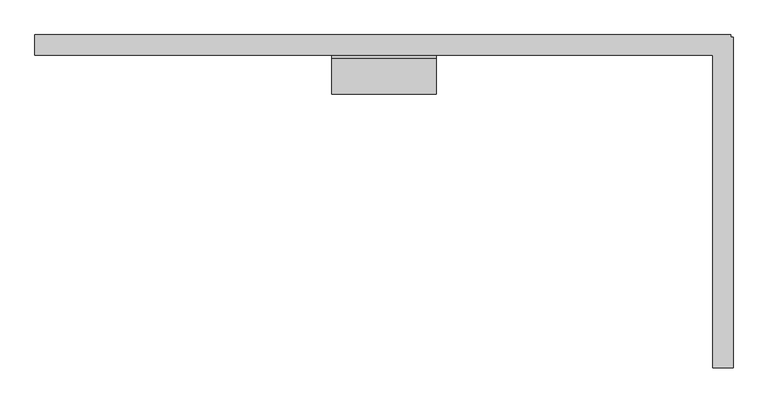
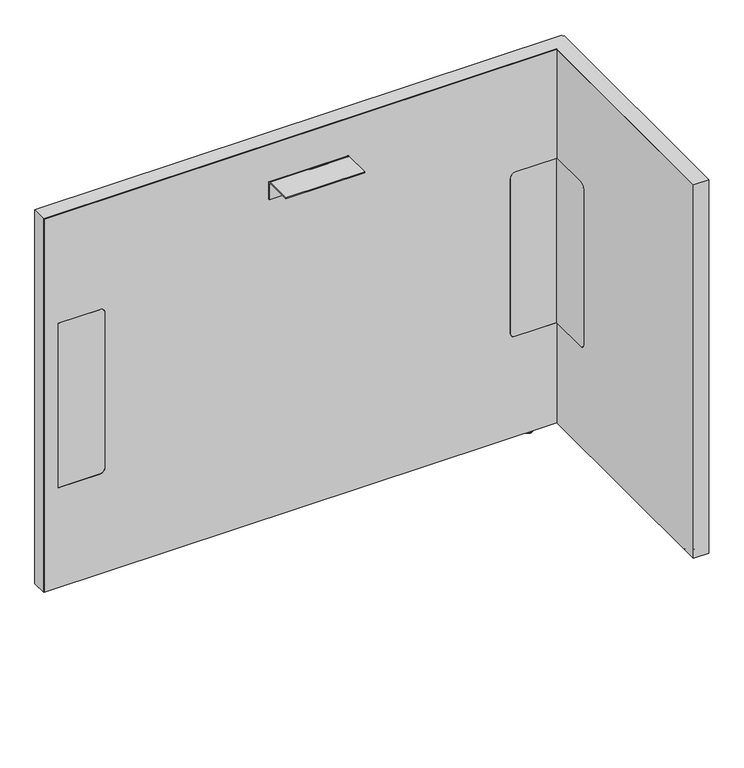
"""IFC4 building model written with IfcOpenShell, lengths in millimetres: furniture geometry, Steelcase - Answer Solution - Boundary Screen - L Return - Single Sided : 30H x 39W."""

import ifcopenshell
import ifcopenshell.guid

model = None  # the IFC model being written
_history = None  # IfcOwnerHistory: only IFC2X3 demands one
_inside = {}  # id of a spatial element -> (the spatial element, [elements in it])
_under = {}  # id of a project, library or spatial element -> (it, [spatial elements below it])
_declared = {}  # id of a project -> (the project, [libraries it declares])
_typed = {}  # id of a type object -> (the type object, [elements of that type])
_made_of = {}  # id of a material, layer set ... -> (it, [elements and type objects made of it])


def new_model(schema):
    """Start an empty IFC model of exactly this schema.

    Asked for "IFC4X3", IfcOpenShell would pick the latest addendum, in which some entities
    have other attributes; the version numbers below select the first issue.
    IFC2X3 requires an IfcOwnerHistory on every rooted entity: one is made here for all.
    """
    global model, _history
    if schema == "IFC4X3":
        model = ifcopenshell.file(schema_version=(4, 3, 0, 0))
    else:
        model = ifcopenshell.file(schema=schema)
    _inside.clear()
    _under.clear()
    _declared.clear()
    _typed.clear()
    _made_of.clear()
    _history = None
    if model.schema == "IFC2X3":
        org = make("IfcOrganization", Name="unknown")
        user = make(
            "IfcPersonAndOrganization",
            ThePerson=make("IfcPerson", FamilyName="unknown"),
            TheOrganization=org,
        )
        app = make(
            "IfcApplication",
            ApplicationDeveloper=org,
            Version="unknown",
            ApplicationFullName="unknown",
            ApplicationIdentifier="unknown",
        )
        _history = make(
            "IfcOwnerHistory",
            OwningUser=user,
            OwningApplication=app,
            ChangeAction="ADDED",
            CreationDate=0,
        )
    return model


def make(cls, **values):
    """One entity of the class cls with the attributes given. An attribute that is None is left unset."""
    return model.create_entity(
        cls, **{name: value for name, value in values.items() if value is not None}
    )


def rooted(cls, **values):
    """An entity with a GlobalId (a new one), such as an element, a storey or a relation."""
    return make(cls, GlobalId=ifcopenshell.guid.new(), OwnerHistory=_history, **values)


def si_unit(unit_type, name, prefix=None):
    """IfcSIUnit, for example si_unit("LENGTHUNIT", "METRE", prefix="MILLI")."""
    return make("IfcSIUnit", UnitType=unit_type, Prefix=prefix, Name=name)


def assignment(units):
    """IfcUnitAssignment: the units of a project."""
    return None if units is None else make("IfcUnitAssignment", Units=units)


def point(xyz):
    """IfcCartesianPoint."""
    return None if xyz is None else make("IfcCartesianPoint", Coordinates=xyz)


def direction(xyz):
    """IfcDirection."""
    return None if xyz is None else make("IfcDirection", DirectionRatios=xyz)


def frame(location, z_axis=None, x_axis=None):
    """IfcAxis2Placement3D, a coordinate frame: its origin and axes. An axis left out is left unset."""
    return make(
        "IfcAxis2Placement3D",
        Location=point(location),
        Axis=direction(z_axis),
        RefDirection=direction(x_axis),
    )


def frame_2d(location, x_axis=None):
    """IfcAxis2Placement2D, a coordinate frame in the plane: its origin and x axis."""
    return make(
        "IfcAxis2Placement2D", Location=point(location), RefDirection=direction(x_axis)
    )


def origin():
    """The frame at (0, 0, 0) with its axes left unset."""
    return frame((0.0, 0.0, 0.0))


def place(relative_to, where):
    """IfcLocalPlacement: puts the frame where relative to a parent placement (None: the world)."""
    return make(
        "IfcLocalPlacement", PlacementRelTo=relative_to, RelativePlacement=where
    )


def context(
    kind, dimensions, precision=None, world=None, true_north=None, identifier=None
):
    """IfcGeometricRepresentationContext, for example the 3D "Model" context."""
    return make(
        "IfcGeometricRepresentationContext",
        ContextIdentifier=identifier,
        ContextType=kind,
        CoordinateSpaceDimension=dimensions,
        Precision=precision,
        WorldCoordinateSystem=world,
        TrueNorth=true_north,
    )


def project(units=None, contexts=None):
    """IfcProject with its units and contexts."""
    return rooted(
        "IfcProject",
        Name="project",
        RepresentationContexts=contexts,
        UnitsInContext=assignment(units),
    )


def spatial(cls, under=None, at=None, **own):
    """A site, building, storey or space (cls), placed at a placement, below another one or the project."""
    s = rooted(cls, ObjectPlacement=at, **own)
    if under is not None:
        _under.setdefault(under.id(), (under, []))[1].append(s)
    return s


def polyline(points):
    """IfcPolyline through the points."""
    return make("IfcPolyline", Points=[point(p) for p in points])


def circle_curve(where, radius):
    """IfcCircle in the frame where."""
    return make("IfcCircle", Position=where, Radius=radius)


def ellipse_curve(where, semi_axis1, semi_axis2):
    """IfcEllipse in the frame where."""
    return make(
        "IfcEllipse", Position=where, SemiAxis1=semi_axis1, SemiAxis2=semi_axis2
    )


def trimmed(basis, trim1, trim2, sense, master):
    """IfcTrimmedCurve: the piece of a basis curve between two trims."""
    return make(
        "IfcTrimmedCurve",
        BasisCurve=basis,
        Trim1=trim1,
        Trim2=trim2,
        SenseAgreement=sense,
        MasterRepresentation=master,
    )


def segment(curve, same_sense, transition):
    """IfcCompositeCurveSegment."""
    return make(
        "IfcCompositeCurveSegment",
        Transition=transition,
        SameSense=same_sense,
        ParentCurve=curve,
    )


def composite_curve(segments, self_intersect=None):
    """IfcCompositeCurve: segments joined end to end."""
    return make("IfcCompositeCurve", Segments=segments, SelfIntersect=self_intersect)


def outline(outer, holes=None, kind="AREA"):
    """IfcArbitraryClosedProfileDef: a profile drawn as a closed curve; with holes, ...WithVoids."""
    if holes is None:
        return make("IfcArbitraryClosedProfileDef", ProfileType=kind, OuterCurve=outer)
    return make(
        "IfcArbitraryProfileDefWithVoids",
        ProfileType=kind,
        OuterCurve=outer,
        InnerCurves=holes,
    )


def extrude(swept, where, along, depth):
    """IfcExtrudedAreaSolid: the profile swept, set in the frame where, extruded along a direction by depth."""
    return make(
        "IfcExtrudedAreaSolid",
        SweptArea=swept,
        Position=where,
        ExtrudedDirection=direction(along),
        Depth=depth,
    )


def faces_of(points, faces, orient=None, outer=None):
    """IfcFace entities. A face is a list of loops; a loop is a list of indices into points, from 0.

    orient and outer hold one flag for each loop. By default every Orientation is true, the
    first loop of a face is its IfcFaceOuterBound and the others are IfcFaceBound.
    """
    made = []
    for i, loops in enumerate(faces):
        bounds = []
        for j, loop in enumerate(loops):
            is_outer = j == 0 if outer is None else outer[i][j]
            bounds.append(
                make(
                    "IfcFaceOuterBound" if is_outer else "IfcFaceBound",
                    Bound=make("IfcPolyLoop", Polygon=[points[k] for k in loop]),
                    Orientation=True if orient is None else orient[i][j],
                )
            )
        made.append(make("IfcFace", Bounds=bounds))
    return made


def faceted_brep(points, faces, orient=None, outer=None, voids=None):
    """IfcFacetedBrep: a solid bounded by flat faces; with voids (closed shells), ...WithVoids."""
    shared = [point(p) for p in points]
    hull = make("IfcClosedShell", CfsFaces=faces_of(shared, faces, orient, outer))
    if voids is None:
        return make("IfcFacetedBrep", Outer=hull)
    return make(
        "IfcFacetedBrepWithVoids",
        Outer=hull,
        Voids=[
            make(cls, CfsFaces=faces_of(shared, fs, o, b)) for cls, fs, o, b in voids
        ],
    )


def shape(context_of_items, identifier, shape_type, items):
    """IfcShapeRepresentation: the items that make up one representation, for example the "Body"."""
    return make(
        "IfcShapeRepresentation",
        ContextOfItems=context_of_items,
        RepresentationIdentifier=identifier,
        RepresentationType=shape_type,
        Items=items,
    )


def source(mapping_origin, context_of_items, identifier, shape_type, items):
    """IfcRepresentationMap: a shape defined once, which mapped items show again and again."""
    return make(
        "IfcRepresentationMap",
        MappingOrigin=mapping_origin,
        MappedRepresentation=shape(context_of_items, identifier, shape_type, items),
    )


def transform(
    local_origin,
    x_axis=None,
    y_axis=None,
    z_axis=None,
    scale=None,
    scale2=None,
    scale3=None,
    uniform=True,
):
    """IfcCartesianTransformationOperator3D, or its non-uniform kind. x_axis, y_axis, z_axis: its Axis1, 2, 3."""
    if uniform:
        return make(
            "IfcCartesianTransformationOperator3D",
            Axis1=direction(x_axis),
            Axis2=direction(y_axis),
            LocalOrigin=point(local_origin),
            Scale=scale,
            Axis3=direction(z_axis),
        )
    return make(
        "IfcCartesianTransformationOperator3DnonUniform",
        Axis1=direction(x_axis),
        Axis2=direction(y_axis),
        LocalOrigin=point(local_origin),
        Scale=scale,
        Axis3=direction(z_axis),
        Scale2=scale2,
        Scale3=scale3,
    )


def mapped(mapping_source, mapping_target):
    """IfcMappedItem: shows the shape of a source again, moved by a transform."""
    return make(
        "IfcMappedItem", MappingSource=mapping_source, MappingTarget=mapping_target
    )


def made_of(thing, what):
    """Note that an element or type object is made of a material, layer set ...; save() writes the relation."""
    if what is not None:
        _made_of.setdefault(what.id(), (what, []))[1].append(thing)
    return thing


def element(
    cls,
    number,
    at=None,
    inside=None,
    cuts=None,
    type_object=None,
    material=None,
    context=None,
    identifier="Body",
    shape_type=None,
    held_by="IfcProductDefinitionShape",
    body=None,
    shapes=None,
    **own,
):
    """One element of the class cls, such as IfcWall. Its Tag is "e" and its number.

    at: its placement. inside: the storey or other place that contains it. cuts: it is an
    opening in that element (IfcRelVoidsElement). A single representation is given by context,
    identifier, shape_type and body (its items); several are given by shapes. held_by: the class
    of the entity that holds the representations. save() writes the other relations.
    """
    e = rooted(cls, Tag="e%d" % number, ObjectPlacement=at, **own)
    if body is not None:
        shapes = [shape(context, identifier, shape_type, body)]
    if shapes is not None:
        e.Representation = make(held_by, Representations=shapes)
    if inside is not None:
        _inside.setdefault(inside.id(), (inside, []))[1].append(e)
    if cuts is not None:
        rooted(
            "IfcRelVoidsElement", RelatingBuildingElement=cuts, RelatedOpeningElement=e
        )
    if type_object is not None:
        _typed.setdefault(type_object.id(), (type_object, []))[1].append(e)
    return made_of(e, material)


def aggregate(whole, parts):
    """IfcRelAggregates: a whole, such as a stair, and the parts it consists of."""
    return rooted("IfcRelAggregates", RelatingObject=whole, RelatedObjects=parts)


def save(model, path):
    """Write the relations noted so far, then the file.

    IfcRelAggregates (storeys below a building ...), IfcRelContainedInSpatialStructure (elements
    in a storey), IfcRelDefinesByType, IfcRelAssociatesMaterial and IfcRelDeclares: one each for
    every whole, place, type object, material and project.
    """
    for whole, parts in _under.values():
        aggregate(whole, parts)
    for where, things in _inside.values():
        rooted(
            "IfcRelContainedInSpatialStructure",
            RelatedElements=things,
            RelatingStructure=where,
        )
    for kind, things in _typed.values():
        rooted("IfcRelDefinesByType", RelatedObjects=things, RelatingType=kind)
    for what, things in _made_of.values():
        rooted("IfcRelAssociatesMaterial", RelatedObjects=things, RelatingMaterial=what)
    for by, libraries in _declared.values():
        rooted("IfcRelDeclares", RelatingContext=by, RelatedDefinitions=libraries)
    model.write(path)


def plane_surface(at):
    """IfcPlane: the flat surface through the origin of the frame at, square to its z axis."""
    return make("IfcPlane", Position=at)


def cylinder_surface(at, radius):
    """IfcCylindricalSurface: all points at the distance radius from the z axis of the frame at."""
    return make("IfcCylindricalSurface", Position=at, Radius=radius)


def revolved_surface(curve, axis_point, axis_direction):
    """IfcSurfaceOfRevolution: the curve turned about the line through axis_point along axis_direction."""
    return make(
        "IfcSurfaceOfRevolution",
        SweptCurve=make("IfcArbitraryOpenProfileDef", ProfileType="CURVE", Curve=curve),
        AxisPosition=make("IfcAxis1Placement", Location=point(axis_point), Axis=direction(axis_direction)),
    )


def advanced_brep(points, edges, surfaces, faces):
    """IfcAdvancedBrep: a solid bounded by faces that lie on surfaces and meet in shared edges.

    An edge is (start, end): straight between two places in points (the first is 0);
    or (start, end, curve); or (start, end, curve, False) where it runs against its curve.
    A face is (place in surfaces, loops), or (place, loops, False) where it looks against
    its surface's normal. A loop lists edges by number (the first is 1), with a minus sign
    where the edge is run from its end to its start. The first loop is the outer one.
    """
    corners = [point(p) for p in points]
    vertices = [make("IfcVertexPoint", VertexGeometry=c) for c in corners]
    made = []
    for start, end, *more in edges:
        made.append(
            make(
                "IfcEdgeCurve",
                EdgeStart=vertices[start],
                EdgeEnd=vertices[end],
                EdgeGeometry=more[0] if more else make("IfcPolyline", Points=[corners[start], corners[end]]),
                SameSense=more[1] if len(more) > 1 else True,
            )
        )
    hull = []
    for where, loops, *sense in faces:
        bounds = []
        for j, loop in enumerate(loops):
            ring = [make("IfcOrientedEdge", EdgeElement=made[abs(k) - 1], Orientation=k > 0) for k in loop]
            bounds.append(
                make(
                    "IfcFaceOuterBound" if j == 0 else "IfcFaceBound",
                    Bound=make("IfcEdgeLoop", EdgeList=ring),
                    Orientation=True,
                )
            )
        hull.append(make("IfcAdvancedFace", Bounds=bounds, FaceSurface=surfaces[where], SameSense=sense[0] if sense else True))
    return make("IfcAdvancedBrep", Outer=make("IfcClosedShell", CfsFaces=hull))


def furniture_5e3e3d8e(model_context):
    return source(origin(), model_context, "Body", "SolidModel", [
        extrude(outline(composite_curve([segment(polyline([(-109.3501471, 549.6162029), (-29.0550397, 549.6162029), (-29.0550397, 213.7762137), (-109.3501471, 213.7762137)]), True, "CONTINUOUS"), segment(trimmed(circle_curve(frame_2d((-109.3501471, 223.9362137)), 10.16), [point((-109.3501471, 213.7762137))], [point((-119.5101471, 223.9362137))], False, "CARTESIAN"), True, "CONTINUOUS"), segment(polyline([(-119.5101471, 223.9362137), (-119.5101471, 539.4562029)]), True, "CONTINUOUS"), segment(trimmed(circle_curve(frame_2d((-109.3501471, 539.4562029)), 10.16), [point((-119.5101471, 539.4562029))], [point((-109.3501471, 549.6162029))], False, "CARTESIAN"), True, "CONTINUOUS")], self_intersect=False)), frame((1220.4191891, 0.0, 0.0), z_axis=(1.0, 0.0, 0.0), x_axis=(0.0, 1.0, 0.0)), (0.0, 0.0, 1.0), 0.6401544),
        advanced_brep(
        [(1235.2672074, -448.0136072, 0.0), (1242.2216144, -448.0136072, 0.0), (1228.3128003, -448.0136072, 0.0), (1243.6762685, -448.0136072, 1.2700001), (1226.8581463, -448.0136072, 1.2700001), (1243.6762685, -448.0136072, 2.9673238), (1226.8581463, -448.0136072, 2.9673238), (1244.6427877, -448.0136072, 2.9673238), (1225.891627, -448.0136072, 2.9673238), (1244.6427877, -448.0136072, 9.9059849), (1225.891627, -448.0136072, 9.9059849), (1235.2672074, -448.0136072, 9.9059849)],
        [
            (0, 1),
            (1, 2, circle_curve(frame((1235.2672074, -448.0136072, 0.0), z_axis=(0.0, 0.0, -1.0), x_axis=(1.0, 0.0, 0.0)), 6.9544071)),
            (2, 0),
            (2, 1, circle_curve(frame((1235.2672074, -448.0136072, 0.0), z_axis=(0.0, 0.0, -1.0), x_axis=(1.0, 0.0, 0.0)), 6.9544071)),
            (1, 3, circle_curve(frame((1242.3945484, -448.0136072, 1.2700001), z_axis=(0.0, -1.0, 0.0), x_axis=(0.0, 0.0, 1.0)), 1.2817201)),
            (3, 4, circle_curve(frame((1235.2672074, -448.0136072, 1.2700001), z_axis=(0.0, 0.0, -1.0), x_axis=(1.0, 0.0, 0.0)), 8.4090611)),
            (4, 2, circle_curve(frame((1228.1398663, -448.0136072, 1.2700001), z_axis=(0.0, -1.0, 0.0), x_axis=(0.0, 0.0, 1.0)), 1.2817201)),
            (4, 3, circle_curve(frame((1235.2672074, -448.0136072, 1.2700001), z_axis=(0.0, 0.0, -1.0), x_axis=(1.0, 0.0, 0.0)), 8.4090611)),
            (3, 5),
            (5, 6, circle_curve(frame((1235.2672074, -448.0136072, 2.9673238), z_axis=(0.0, 0.0, -1.0), x_axis=(1.0, 0.0, 0.0)), 8.4090611)),
            (6, 4),
            (6, 5, circle_curve(frame((1235.2672074, -448.0136072, 2.9673238), z_axis=(0.0, 0.0, -1.0), x_axis=(1.0, 0.0, 0.0)), 8.4090611)),
            (5, 7),
            (7, 8, circle_curve(frame((1235.2672074, -448.0136072, 2.9673238), z_axis=(0.0, 0.0, -1.0), x_axis=(1.0, 0.0, 0.0)), 9.3755804)),
            (8, 6),
            (8, 7, circle_curve(frame((1235.2672074, -448.0136072, 2.9673238), z_axis=(0.0, 0.0, -1.0), x_axis=(1.0, 0.0, 0.0)), 9.3755804)),
            (7, 9),
            (9, 10, circle_curve(frame((1235.2672074, -448.0136072, 9.9059849), z_axis=(0.0, 0.0, -1.0), x_axis=(1.0, 0.0, 0.0)), 9.3755804)),
            (10, 8),
            (10, 9, circle_curve(frame((1235.2672074, -448.0136072, 9.9059849), z_axis=(0.0, 0.0, -1.0), x_axis=(1.0, 0.0, 0.0)), 9.3755804)),
            (9, 11),
            (11, 10),
        ],
        [
            plane_surface(frame((1235.2672074, -448.0136072, 0.0), z_axis=(0.0, 0.0, -1.0), x_axis=(1.0, 0.0, 0.0))),
            revolved_surface(trimmed(ellipse_curve(frame((1242.3945484, -448.0136072, 1.2700001), z_axis=(0.0, 1.0, 0.0), x_axis=(0.0, 0.0, 1.0)), 1.2817201, 1.2817201), [point((1243.6762685, -448.0136072, 1.2700001))], [point((1242.2216144, -448.0136072, 0.0))], True, "CARTESIAN"), (1235.2672074, -448.0136072, 9.9059849), (0.0, 0.0, -1.0)),
            cylinder_surface(frame((1235.2672074, -448.0136072, 9.9059849), z_axis=(0.0, 0.0, -1.0), x_axis=(1.0, 0.0, 0.0)), 8.4090611),
            plane_surface(frame((1235.2672074, -448.0136072, 2.9673238), z_axis=(0.0, 0.0, -1.0), x_axis=(1.0, 0.0, 0.0))),
            cylinder_surface(frame((1235.2672074, -448.0136072, 9.9059849), z_axis=(0.0, 0.0, -1.0), x_axis=(1.0, 0.0, 0.0)), 9.3755804),
            plane_surface(frame((1235.2672074, -448.0136072, 9.9059849), z_axis=(0.0, 0.0, 1.0), x_axis=(1.0, 0.0, 0.0))),
        ],
        [
            (0, [[1, 2, 3]]),
            (0, [[-3, 4, -1]]),
            (1, [[-2, 5, 6, 7]]),
            (1, [[-4, -7, 8, -5]]),
            (2, [[-6, 9, 10, 11]]),
            (2, [[-8, -11, 12, -9]]),
            (3, [[-10, 13, 14, 15]]),
            (3, [[-12, -15, 16, -13]]),
            (4, [[-14, 17, 18, 19]]),
            (4, [[-16, -19, 20, -17]]),
            (5, [[-18, 21, 22]]),
            (5, [[-20, -22, -21]]),
        ],
    ),
        faceted_brep([(1246.8531179, 0.0, 772.922), (1246.8531179, 0.0, 9.9059849), (1245.8621491, 0.0, 9.9059849), (1245.8621491, 0.0, 771.942118), (230.8097779, 0.0, 771.942118), (230.8097779, 0.0, 9.9059849), (229.8191891, 0.0, 9.9059849), (229.8191891, 0.0, 772.922), (229.8191891, -29.6898332, 772.922), (229.8191891, -29.6898332, 9.9059849), (230.8097779, -29.6898332, 9.9059849), (230.8097779, -29.6898332, 771.942118), (1220.4191891, -29.6898332, 771.942118), (1220.4191891, -29.6898332, 772.922), (1245.8621491, -29.6898332, 771.942118), (1245.8621491, -29.6898332, 9.9059849), (1246.8531179, -29.6898332, 9.9059849), (1246.8531179, -29.6898332, 771.942118), (1246.8531179, -3.2625916, 772.922), (1246.8531179, -3.2625916, 9.9059849), (1246.8531179, -4.252647, 9.9059849), (1246.8531179, -4.252647, 771.942118), (1250.1152256, -3.2625916, 9.9059849), (1250.1152256, -4.252647, 9.9059849), (1245.8621491, -4.252647, 9.9059849), (1220.4191891, -4.252647, 9.9059849), (1220.4191891, -3.2625916, 9.9059849), (1245.8621491, -3.2625916, 9.9059849), (1220.4191891, -486.8898332, 772.922), (1250.1152256, -486.8898332, 772.922), (1250.1152256, -3.2625916, 772.922), (1245.8621491, -3.2625916, 771.942118), (1245.8621491, -4.252647, 771.942118), (1220.4191891, -3.2625916, 771.942118), (1220.4191891, -4.252647, 771.942118), (1250.1152256, -4.252647, 771.942118), (1250.1152256, -485.899196, 771.942118), (1220.4191891, -485.899196, 771.942118), (1220.4191891, -485.899196, 9.9059849), (1220.4191891, -486.8898332, 9.9059849), (1250.1152256, -486.8898332, 9.9059849), (1250.1152256, -485.899196, 9.9059849)], [[[0, 1, 2, 3, 4, 5, 6, 7]], [[8, 9, 10, 11, 12, 13]], [[14, 15, 16, 17]], [[1, 0, 18, 19]], [[17, 16, 20, 21]], [[2, 1, 19, 22, 23, 20, 16, 15, 24, 25, 26, 27]], [[7, 6, 9, 8]], [[0, 7, 8, 13, 28, 29, 30, 18]], [[3, 2, 27, 31]], [[15, 14, 32, 24]], [[4, 3, 31, 33, 34, 32, 14, 17, 21, 35, 36, 37, 12, 11]], [[5, 4, 11, 10]], [[6, 5, 10, 9]], [[26, 25, 34, 33]], [[37, 38, 39, 28, 13, 12]], [[29, 40, 41, 36, 35, 23, 22, 30]], [[27, 26, 33, 31]], [[30, 22, 19, 18]], [[34, 25, 24, 32]], [[23, 35, 21, 20]], [[38, 37, 36, 41]], [[39, 38, 41, 40]], [[28, 39, 40, 29]]]),
        extrude(outline(composite_curve([segment(polyline([(-86.8398151, 696.4680019), (-86.8398151, 698.5), (-34.9450855, 698.5)]), True, "CONTINUOUS"), segment(trimmed(circle_curve(frame_2d((-34.9450855, 693.2447477)), 5.2552523), [point((-34.9450855, 698.5))], [point((-29.6898332, 693.2447477))], False, "CARTESIAN"), True, "CONTINUOUS"), segment(polyline([(-29.6898332, 693.2447477), (-29.6898332, 660.4), (-31.7218162, 660.4), (-31.7218162, 693.0058743)]), True, "CONTINUOUS"), segment(trimmed(circle_curve(frame_2d((-35.1839438, 693.0058743)), 3.4621276), [point((-31.7218162, 693.0058743))], [point((-35.1839438, 696.4680019))], True, "CARTESIAN"), True, "CONTINUOUS"), segment(polyline([(-35.1839438, 696.4680019), (-86.8398151, 696.4680019)]), True, "CONTINUOUS")], self_intersect=False)), frame((663.7685899, 0.0, 0.0), z_axis=(1.0, 0.0, 0.0), x_axis=(0.0, 1.0, 0.0)), (0.0, 0.0, 1.0), 152.4000969),
        advanced_brep(
        [(1172.9246853, -23.7588726, 9.9059849), (1172.9246853, -5.9309607, 9.9059849), (1172.9246853, -14.8449166, 9.9059849), (1172.9246853, -23.7588726, 2.9673238), (1172.9246853, -5.9309607, 2.9673238), (1172.9246853, -22.7915354, 2.9673238), (1172.9246853, -6.8982978, 2.9673238), (1172.9246853, -22.7915354, 1.6569081), (1172.9246853, -6.8982978, 1.6569081), (1172.9246853, -21.1346274, 0.0), (1172.9246853, -8.5552059, 0.0), (1172.9246853, -14.8449166, 0.0)],
        [
            (0, 1, circle_curve(frame((1172.9246853, -14.8449166, 9.9059849), z_axis=(0.0, 0.0, 1.0), x_axis=(0.0, 1.0, 0.0)), 8.913956)),
            (1, 2),
            (2, 0),
            (1, 0, circle_curve(frame((1172.9246853, -14.8449166, 9.9059849), z_axis=(0.0, 0.0, 1.0), x_axis=(0.0, 1.0, 0.0)), 8.913956)),
            (3, 4, circle_curve(frame((1172.9246853, -14.8449166, 2.9673238), z_axis=(0.0, 0.0, 1.0), x_axis=(0.0, 1.0, 0.0)), 8.913956)),
            (4, 1),
            (0, 3),
            (4, 3, circle_curve(frame((1172.9246853, -14.8449166, 2.9673238), z_axis=(0.0, 0.0, 1.0), x_axis=(0.0, 1.0, 0.0)), 8.913956)),
            (5, 6, circle_curve(frame((1172.9246853, -14.8449166, 2.9673238), z_axis=(0.0, 0.0, 1.0), x_axis=(0.0, 1.0, 0.0)), 7.9466188)),
            (6, 4),
            (3, 5),
            (6, 5, circle_curve(frame((1172.9246853, -14.8449166, 2.9673238), z_axis=(0.0, 0.0, 1.0), x_axis=(0.0, 1.0, 0.0)), 7.9466188)),
            (7, 8, circle_curve(frame((1172.9246853, -14.8449166, 1.6569081), z_axis=(0.0, 0.0, 1.0), x_axis=(0.0, 1.0, 0.0)), 7.9466188)),
            (8, 6),
            (5, 7),
            (8, 7, circle_curve(frame((1172.9246853, -14.8449166, 1.6569081), z_axis=(0.0, 0.0, 1.0), x_axis=(0.0, 1.0, 0.0)), 7.9466188)),
            (9, 10, circle_curve(frame((1172.9246853, -14.8449166, 0.0), z_axis=(0.0, 0.0, 1.0), x_axis=(0.0, 1.0, 0.0)), 6.2897107)),
            (10, 8, circle_curve(frame((1172.9246853, -8.5552059, 1.6569081), z_axis=(1.0, 0.0, 0.0), x_axis=(0.0, 1.0, 0.0)), 1.6569081)),
            (7, 9, circle_curve(frame((1172.9246853, -21.1346274, 1.6569081), z_axis=(1.0, 0.0, 0.0), x_axis=(0.0, -1.0, 0.0)), 1.6569081)),
            (10, 9, circle_curve(frame((1172.9246853, -14.8449166, 0.0), z_axis=(0.0, 0.0, 1.0), x_axis=(0.0, 1.0, 0.0)), 6.2897107)),
            (11, 10),
            (9, 11),
        ],
        [
            plane_surface(frame((1172.9246853, -14.8449166, 9.9059849), z_axis=(0.0, 0.0, 1.0), x_axis=(0.0, 1.0, 0.0))),
            cylinder_surface(frame((1172.9246853, -14.8449166, 9.9059849), z_axis=(0.0, 0.0, -1.0), x_axis=(0.0, 1.0, 0.0)), 8.913956),
            plane_surface(frame((1172.9246853, -14.8449166, 2.9673238), z_axis=(0.0, 0.0, -1.0), x_axis=(0.0, 1.0, 0.0))),
            cylinder_surface(frame((1172.9246853, -14.8449166, 9.9059849), z_axis=(0.0, 0.0, -1.0), x_axis=(0.0, 1.0, 0.0)), 7.9466188),
            revolved_surface(trimmed(ellipse_curve(frame((1172.9246853, -8.5552059, 1.6569081), z_axis=(-1.0, 0.0, 0.0), x_axis=(0.0, 1.0, 0.0)), 1.6569081, 1.6569081), [point((1172.9246853, -6.8982978, 1.6569081))], [point((1172.9246853, -8.5552059, 0.0))], True, "CARTESIAN"), (1172.9246853, -14.8449166, 9.9059849), (0.0, 0.0, -1.0)),
            plane_surface(frame((1172.9246853, -14.8449166, 0.0), z_axis=(0.0, 0.0, -1.0), x_axis=(0.0, 1.0, 0.0))),
        ],
        [
            (0, [[1, 2, 3]]),
            (0, [[4, -3, -2]]),
            (1, [[5, 6, -1, 7]]),
            (1, [[8, -7, -4, -6]]),
            (2, [[9, 10, -5, 11]]),
            (2, [[12, -11, -8, -10]]),
            (3, [[13, 14, -9, 15]]),
            (3, [[16, -15, -12, -14]]),
            (4, [[17, 18, -13, 19]]),
            (4, [[20, -19, -16, -18]]),
            (5, [[21, -17, 22]]),
            (5, [[-22, -20, -21]]),
        ],
    ),
        advanced_brep(
        [(230.8097779, 0.0, 771.942118), (1245.8621491, 0.0, 771.942118), (1245.8621491, 0.0, 9.9059849), (230.8097779, 0.0, 9.9059849), (347.9483813, -29.0550397, 539.4562029), (337.7883813, -29.0550397, 549.6162029), (258.1344836, -29.0550397, 549.6162029), (258.1344836, -29.0550397, 213.7762137), (337.7883813, -29.0550397, 213.7762137), (347.9483813, -29.0550397, 223.9362137), (1221.0593435, -29.0550397, 213.7762137), (1221.0593435, -29.0550397, 549.6162029), (1140.5109268, -29.0550397, 549.6162029), (1130.3509268, -29.0550397, 539.4562029), (1130.3509268, -29.0550397, 223.9362137), (1140.5109268, -29.0550397, 213.7762137), (230.8097779, -29.6898332, 771.942118), (230.8097779, -29.6898332, 9.9059849), (1220.4191891, -29.6898332, 9.9059849), (1220.4191891, -29.6898332, 213.7762137), (1140.5109268, -29.6898332, 213.7762137), (1130.3509268, -29.6898332, 223.9362137), (1130.3509268, -29.6898332, 539.4562029), (1140.5109268, -29.6898332, 549.6162029), (1220.4191891, -29.6898332, 549.6162029), (1220.4191891, -29.6898332, 771.942118), (337.7883813, -29.6898332, 549.6162029), (347.9483813, -29.6898332, 539.4562029), (347.9483813, -29.6898332, 223.9362137), (337.7883813, -29.6898332, 213.7762137), (258.1344836, -29.6898332, 213.7762137), (258.1344836, -29.6898332, 549.6162029), (1245.8621491, -4.252647, 9.9059849), (1250.1152256, -4.252647, 9.9059849), (1250.1152256, -485.899196, 9.9059849), (1220.4191891, -485.899196, 9.9059849), (1245.8621491, -4.252647, 771.942118), (1220.4191891, -485.899196, 771.942118), (1250.1152256, -485.899196, 771.942118), (1250.1152256, -4.252647, 771.942118), (1221.0593435, -109.3501471, 549.6162029), (1220.4191891, -109.3501471, 549.6162029), (1221.0593435, -109.3501471, 213.7762137), (1221.0593435, -119.5101471, 223.9362137), (1221.0593435, -119.5101471, 539.4562029), (1220.4191891, -109.3501471, 213.7762137), (1220.4191891, -119.5101471, 539.4562029), (1220.4191891, -119.5101471, 223.9362137)],
        [
            (0, 1),
            (1, 2),
            (2, 3),
            (3, 0),
            (4, 5, circle_curve(frame((337.7883813, -29.0550397, 539.4562029), z_axis=(0.0, -1.0, 0.0), x_axis=(0.0, 0.0, 1.0)), 10.16)),
            (5, 6),
            (6, 7),
            (7, 8),
            (8, 9, circle_curve(frame((337.7883813, -29.0550397, 223.9362137), z_axis=(0.0, -1.0, 0.0), x_axis=(0.0, 0.0, 1.0)), 10.16)),
            (9, 4),
            (10, 11),
            (11, 12),
            (12, 13, circle_curve(frame((1140.5109268, -29.0550397, 539.4562029), z_axis=(0.0, -1.0, 0.0), x_axis=(0.0, 0.0, 1.0)), 10.16)),
            (13, 14),
            (14, 15, circle_curve(frame((1140.5109268, -29.0550397, 223.9362137), z_axis=(0.0, -1.0, 0.0), x_axis=(0.0, 0.0, 1.0)), 10.16)),
            (15, 10),
            (16, 17),
            (17, 18),
            (18, 19),
            (19, 20),
            (20, 21, circle_curve(frame((1140.5109268, -29.6898332, 223.9362137), z_axis=(0.0, 1.0, 0.0), x_axis=(0.0, 0.0, 1.0)), 10.16)),
            (21, 22),
            (22, 23, circle_curve(frame((1140.5109268, -29.6898332, 539.4562029), z_axis=(0.0, 1.0, 0.0), x_axis=(0.0, 0.0, 1.0)), 10.16)),
            (23, 24),
            (24, 25),
            (25, 16),
            (26, 27, circle_curve(frame((337.7883813, -29.6898332, 539.4562029), z_axis=(0.0, 1.0, 0.0), x_axis=(0.0, 0.0, 1.0)), 10.16)),
            (27, 28),
            (28, 29, circle_curve(frame((337.7883813, -29.6898332, 223.9362137), z_axis=(0.0, 1.0, 0.0), x_axis=(0.0, 0.0, 1.0)), 10.16)),
            (29, 30),
            (30, 31),
            (31, 26),
            (16, 0),
            (3, 17),
            (2, 32),
            (32, 33),
            (33, 34),
            (34, 35),
            (35, 18),
            (1, 36),
            (36, 32),
            (25, 37),
            (37, 38),
            (38, 39),
            (39, 36),
            (26, 5),
            (4, 27),
            (9, 28),
            (8, 29),
            (7, 30),
            (6, 31),
            (11, 40),
            (40, 41),
            (41, 24),
            (23, 12),
            (42, 43, circle_curve(frame((1221.0593435, -109.3501471, 223.9362137), z_axis=(-1.0, 0.0, 0.0), x_axis=(0.0, 1.0, 0.0)), 10.16)),
            (43, 44),
            (44, 40, circle_curve(frame((1221.0593435, -109.3501471, 539.4562029), z_axis=(-1.0, 0.0, 0.0), x_axis=(0.0, 1.0, 0.0)), 10.16)),
            (10, 42),
            (15, 20),
            (19, 45),
            (45, 42),
            (14, 21),
            (13, 22),
            (35, 37),
            (41, 46, circle_curve(frame((1220.4191891, -109.3501471, 539.4562029), z_axis=(1.0, 0.0, 0.0), x_axis=(0.0, 1.0, 0.0)), 10.16)),
            (46, 47),
            (47, 45, circle_curve(frame((1220.4191891, -109.3501471, 223.9362137), z_axis=(1.0, 0.0, 0.0), x_axis=(0.0, 1.0, 0.0)), 10.16)),
            (38, 34),
            (33, 39),
            (44, 46),
            (43, 47),
        ],
        [
            plane_surface(frame((347.9483813, 0.0, 549.6162029), z_axis=(0.0, 1.0, 0.0), x_axis=(0.0, 0.0, -1.0))),
            plane_surface(frame((347.9483813, -29.0550397, 549.6162029), z_axis=(0.0, -1.0, 0.0), x_axis=(0.0, 0.0, 1.0))),
            plane_surface(frame((1245.8621491, -29.6898332, 771.942118), z_axis=(0.0, -1.0, 0.0), x_axis=(-1.0, 0.0, 0.0))),
            plane_surface(frame((230.8097779, 0.0, 9.9059849), z_axis=(-1.0, 0.0, 0.0), x_axis=(0.0, -1.0, 0.0))),
            plane_surface(frame((1245.8621491, 0.0, 9.9059849), z_axis=(0.0, 0.0, -1.0), x_axis=(0.0, -1.0, 0.0))),
            plane_surface(frame((1245.8621491, 0.0, 771.942118), z_axis=(1.0, 0.0, 0.0), x_axis=(0.0, -1.0, 0.0))),
            plane_surface(frame((230.8097779, 0.0, 771.942118), z_axis=(0.0, 0.0, 1.0), x_axis=(0.0, -1.0, 0.0))),
            revolved_surface(polyline([(337.7883813, -29.6898332, 549.6162029), (337.7883813, -29.0550397, 549.6162029)]), (337.7883813, -29.6898332, 539.4562029), (0.0, -1.0, 0.0)),
            plane_surface(frame((347.9483813, 0.0, 223.9362137), z_axis=(-1.0, 0.0, 0.0), x_axis=(0.0, -1.0, 0.0))),
            revolved_surface(polyline([(337.7883813, -29.6898332, 234.0962137), (337.7883813, -29.0550397, 234.0962137)]), (337.7883813, -29.6898332, 223.9362137), (0.0, -1.0, 0.0)),
            plane_surface(frame((258.1344836, 0.0, 213.7762137), z_axis=(0.0, 0.0, 1.0), x_axis=(0.0, -1.0, 0.0))),
            plane_surface(frame((258.1344836, 0.0, 549.6162029), z_axis=(1.0, 0.0, 0.0), x_axis=(0.0, -1.0, 0.0))),
            plane_surface(frame((337.7883813, 0.0, 549.6162029), z_axis=(0.0, 0.0, -1.0), x_axis=(0.0, -1.0, 0.0))),
            plane_surface(frame((1221.0593435, 0.0, 549.6162029), z_axis=(0.0, 0.0, -1.0), x_axis=(0.0, -1.0, 0.0))),
            plane_surface(frame((1221.0593435, 0.0, 213.7762137), z_axis=(-1.0, 0.0, 0.0), x_axis=(0.0, -1.0, 0.0))),
            plane_surface(frame((1140.5109268, 0.0, 213.7762137), z_axis=(0.0, 0.0, 1.0), x_axis=(0.0, -1.0, 0.0))),
            revolved_surface(polyline([(1140.5109268, -29.6898332, 234.0962137), (1140.5109268, -29.0550397, 234.0962137)]), (1140.5109268, -29.6898332, 223.9362137), (0.0, -1.0, 0.0)),
            plane_surface(frame((1130.3509268, 0.0, 539.4562029), z_axis=(1.0, 0.0, 0.0), x_axis=(0.0, -1.0, 0.0))),
            revolved_surface(polyline([(1140.5109268, -29.6898332, 549.6162029), (1140.5109268, -29.0550397, 549.6162029)]), (1140.5109268, -29.6898332, 539.4562029), (0.0, -1.0, 0.0)),
            plane_surface(frame((1220.4191891, -485.899196, 771.942118), z_axis=(-1.0, 0.0, 0.0), x_axis=(0.0, 0.0, 1.0))),
            plane_surface(frame((1250.1152256, -485.899196, 771.942118), z_axis=(1.0, 0.0, 0.0), x_axis=(0.0, 0.0, -1.0))),
            plane_surface(frame((1250.1152256, -4.252647, 9.9059849), z_axis=(0.0, 1.0, 0.0), x_axis=(-1.0, 0.0, 0.0))),
            plane_surface(frame((1250.1152256, -485.899196, 771.942118), z_axis=(0.0, -1.0, 0.0), x_axis=(-1.0, 0.0, 0.0))),
            revolved_surface(polyline([(1220.4191891, -99.1901471, 539.4562029), (1221.0593435, -99.1901471, 539.4562029)]), (-340.6902705, -109.3501471, 539.4562029), (-1.0, 0.0, 0.0)),
            plane_surface(frame((1250.1152256, -119.5101471, 223.9362137), z_axis=(0.0, 1.0, 0.0), x_axis=(-1.0, 0.0, 0.0))),
            revolved_surface(polyline([(1220.4191891, -99.1901471, 223.9362137), (1221.0593435, -99.1901471, 223.9362137)]), (-340.6902705, -109.3501471, 223.9362137), (-1.0, 0.0, 0.0)),
        ],
        [
            (0, [[1, 2, 3, 4]]),
            (1, [[5, 6, 7, 8, 9, 10]]),
            (1, [[11, 12, 13, 14, 15, 16]]),
            (2, [[17, 18, 19, 20, 21, 22, 23, 24, 25, 26], [27, 28, 29, 30, 31, 32]]),
            (3, [[-17, 33, -4, 34]]),
            (4, [[-3, 35, 36, 37, 38, 39, -18, -34]]),
            (5, [[-2, 40, 41, -35]]),
            (6, [[-1, -33, -26, 42, 43, 44, 45, -40]]),
            (7, [[-27, 46, -5, 47]]),
            (8, [[-28, -47, -10, 48]]),
            (9, [[-29, -48, -9, 49]]),
            (10, [[-30, -49, -8, 50]]),
            (11, [[-31, -50, -7, 51]]),
            (12, [[-32, -51, -6, -46]]),
            (13, [[52, 53, 54, -24, 55, -12]]),
            (14, [[56, 57, 58, -52, -11, 59]]),
            (15, [[-59, -16, 60, -20, 61, 62]]),
            (16, [[-21, -60, -15, 63]]),
            (17, [[-22, -63, -14, 64]]),
            (18, [[-23, -64, -13, -55]]),
            (19, [[65, -42, -25, -54, 66, 67, 68, -61, -19, -39]]),
            (20, [[69, -37, 70, -44]]),
            (21, [[-70, -36, -41, -45]]),
            (22, [[-65, -38, -69, -43]]),
            (23, [[-66, -53, -58, 71]]),
            (24, [[-67, -71, -57, 72]]),
            (25, [[-68, -72, -56, -62]]),
        ],
    ),
        extrude(outline(composite_curve([segment(polyline([(549.6162029, 337.7883813), (549.6162029, 258.1344836), (213.7762137, 258.1344836), (213.7762137, 337.7883813)]), True, "CONTINUOUS"), segment(trimmed(circle_curve(frame_2d((223.9362137, 337.7883813)), 10.16), [point((213.7762137, 337.7883813))], [point((223.9362137, 347.9483813))], False, "CARTESIAN"), True, "CONTINUOUS"), segment(polyline([(223.9362137, 347.9483813), (539.4562029, 347.9483813)]), True, "CONTINUOUS"), segment(trimmed(circle_curve(frame_2d((539.4562029, 337.7883813)), 10.16), [point((539.4562029, 347.9483813))], [point((549.6162029, 337.7883813))], False, "CARTESIAN"), True, "CONTINUOUS")], self_intersect=False)), frame((0.0, -29.6898332, 0.0), z_axis=(0.0, 1.0, 0.0), x_axis=(0.0, 0.0, 1.0)), (0.0, 0.0, 1.0), 0.6347935),
        extrude(outline(composite_curve([segment(trimmed(circle_curve(frame_2d((539.4562029, 1140.5109268)), 10.16), [point((549.6162029, 1140.5109268))], [point((539.4562029, 1130.3509268))], False, "CARTESIAN"), True, "CONTINUOUS"), segment(polyline([(539.4562029, 1130.3509268), (223.9362137, 1130.3509268)]), True, "CONTINUOUS"), segment(trimmed(circle_curve(frame_2d((223.9362137, 1140.5109268)), 10.16), [point((223.9362137, 1130.3509268))], [point((213.7762137, 1140.5109268))], False, "CARTESIAN"), True, "CONTINUOUS"), segment(polyline([(213.7762137, 1140.5109268), (213.7762137, 1220.4191891), (549.6162029, 1220.4191891), (549.6162029, 1140.5109268)]), True, "CONTINUOUS")], self_intersect=False)), frame((0.0, -29.6898332, 0.0), z_axis=(0.0, 1.0, 0.0), x_axis=(0.0, 0.0, 1.0)), (0.0, 0.0, 1.0), 0.6347935),
    ])


if __name__ == "__main__":
    model = new_model("IFC4")
    model_context = context("Model", 3, world=origin())
    ifc_project = project(units=[si_unit("LENGTHUNIT", "METRE", prefix="MILLI")], contexts=[model_context])
    site = spatial("IfcSite", under=ifc_project)
    building = spatial("IfcBuilding", under=site)
    placement = place(None, origin())
    furniture_shape = furniture_5e3e3d8e(model_context)
    element("IfcFurniture", 1, ObjectType="Steelcase - Answer Solution - Boundary Screen - L Return - Single Sided : 30H x 39W", at=placement, inside=building, context=model_context, shape_type="MappedRepresentation", body=[
        mapped(furniture_shape, transform((0.0, 0.0, 0.0), x_axis=(1.0, 0.0, 0.0), y_axis=(0.0, 1.0, 0.0), z_axis=(0.0, 0.0, 1.0))),
    ])
    save(model, "model.ifc")
